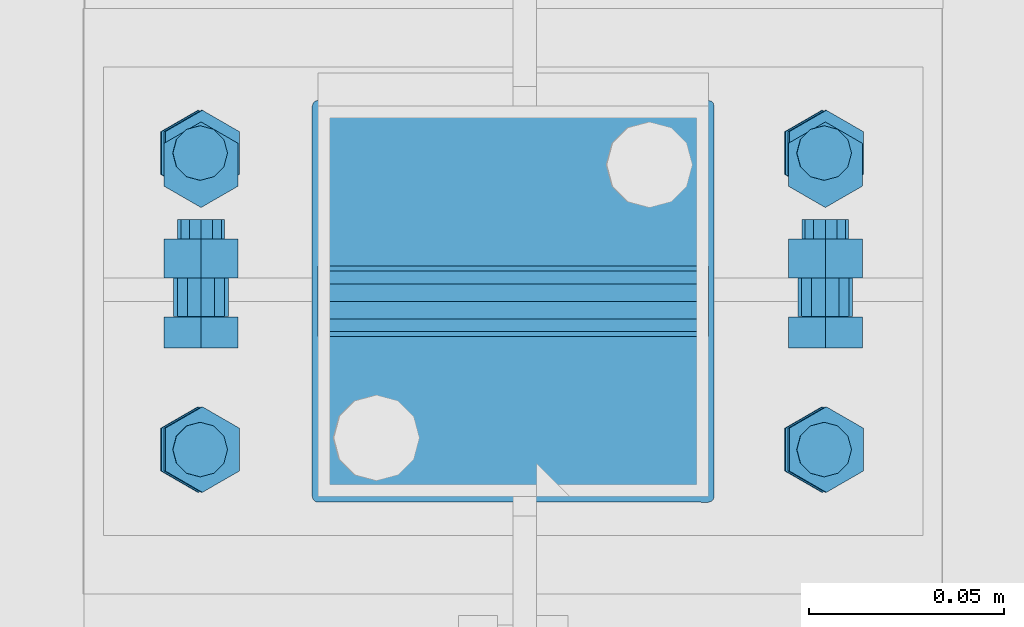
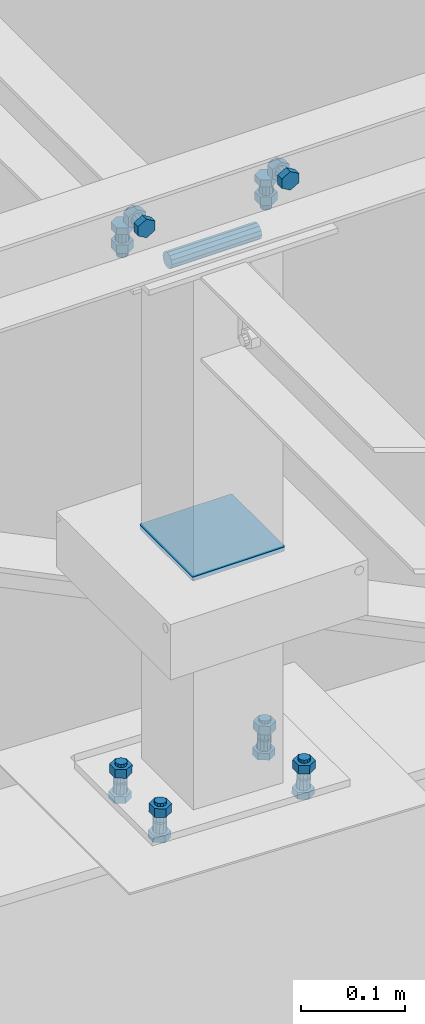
# One storey, part 279 of 3134: 6 mechanical fasteners, 4 elements without a shape of their own.
"""IFC2X3 building model written with IfcOpenShell, lengths in millimetres."""

from ifc_helpers import new_model, si_unit, frame, origin_with_axes, place, context, subcontext, project, spatial, faceted_brep, source, transform, mapped, material, type_object, element, aggregate, save


model = new_model("IFC2X3")

# Units and contexts
model_context = context("Model", 3, precision=1e-05, world=origin_with_axes())
body_context = subcontext(model_context, "Body", "Model", "MODEL_VIEW")
ifc_project = project(units=[si_unit("LENGTHUNIT", "METRE", prefix="MILLI"), si_unit("AREAUNIT", "SQUARE_METRE"), si_unit("VOLUMEUNIT", "CUBIC_METRE"), si_unit("MASSUNIT", "GRAM", prefix="KILO"), si_unit("TIMEUNIT", "SECOND"), si_unit("PLANEANGLEUNIT", "RADIAN"), si_unit("SOLIDANGLEUNIT", "STERADIAN"), si_unit("THERMODYNAMICTEMPERATUREUNIT", "DEGREE_CELSIUS"), si_unit("LUMINOUSINTENSITYUNIT", "LUMEN")], contexts=[model_context])

# Site, building, storey
site_placement = place(None, origin_with_axes())
site = spatial("IfcSite", under=ifc_project, at=site_placement, CompositionType="ELEMENT")
building_placement = place(site_placement, origin_with_axes())
building = spatial("IfcBuilding", under=site, at=building_placement, Name="Undefined", CompositionType="ELEMENT")
storey_placement = place(building_placement, origin_with_axes())
storey = spatial("IfcBuildingStorey", under=building, at=storey_placement, Name="Undefined", CompositionType="ELEMENT", Elevation=0.0)

# Assembly, mechanical fastener
assembly_1_placement = place(storey_placement, origin_with_axes())
assembly_1 = element("IfcElementAssembly", 1, at=assembly_1_placement, inside=storey, AssemblyPlace="NOTDEFINED", PredefinedType="RIGID_FRAME")
ifc_material_1 = material(Name="8.8")
mechanical_fastener_type = type_object("IfcMechanicalFastenerType", Name="Bolt assembly")
shared_shape_1 = source(origin_with_axes(), body_context, "Body", "Brep", [
    faceted_brep([(10.9696551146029, -14.0, 0.0), (5.48482755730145, -14.0, 9.5), (-5.48482755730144, -14.0, 9.5), (-10.9696551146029, -14.0, 1.34339530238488e-15), (-5.48482755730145, -14.0, -9.5), (5.48482755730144, -14.0, -9.50000000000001), (5.48482755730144, -6.0, -9.50000000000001), (-5.48482755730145, -6.0, -9.5), (-10.9696551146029, -6.0, 1.34339530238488e-15), (-5.48482755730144, -6.0, 9.5), (5.48482755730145, -6.0, 9.5), (10.9696551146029, -6.0, 0.0), (6.0, -6.0, 0.0), (5.19615242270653, -6.0, 3.00000000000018), (2.99999999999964, -6.0, 5.19615242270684), (-6.21801588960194e-13, -6.0, 6.0), (-3.00000000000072, -6.0, 5.19615242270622), (-5.19615242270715, -6.0, 2.9999999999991), (-6.0, -6.0, -1.24360317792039e-12), (-5.19615242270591, -6.0, -3.00000000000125), (-2.99999999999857, -6.0, -5.19615242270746), (1.85874342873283e-12, -6.0, -6.0), (3.00000000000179, -6.0, -5.1961524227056), (5.19615242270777, -6.0, -2.99999999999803), (5.19615242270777, 24.0, -2.99999999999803), (3.00000000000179, 24.0, -5.1961524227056), (1.85874342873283e-12, 24.0, -6.0), (-2.99999999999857, 24.0, -5.19615242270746), (-5.19615242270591, 24.0, -3.00000000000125), (-6.0, 24.0, -1.24360317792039e-12), (-5.19615242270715, 24.0, 2.9999999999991), (-3.00000000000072, 24.0, 5.19615242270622), (-6.21801588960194e-13, 24.0, 6.0), (2.99999999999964, 24.0, 5.19615242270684), (5.19615242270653, 24.0, 3.00000000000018), (6.0, 24.0, 0.0), (10.9696551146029, 6.00000000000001, 0.0), (5.48482755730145, 6.00000000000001, 9.5), (-5.48482755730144, 6.00000000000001, 9.5), (-10.9696551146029, 6.00000000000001, 1.34339530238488e-15), (-5.48482755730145, 6.00000000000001, -9.5), (5.48482755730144, 6.00000000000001, -9.50000000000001), (5.48482755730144, 16.0, -9.50000000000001), (-5.48482755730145, 16.0, -9.5), (-10.9696551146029, 16.0, 1.34339530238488e-15), (-5.48482755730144, 16.0, 9.5), (5.48482755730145, 16.0, 9.5), (10.9696551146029, 16.0, 0.0)], [[[0, 1, 2, 3, 4, 5]], [[6, 7, 8, 9, 10, 11]], [[0, 11, 10, 1]], [[1, 10, 9, 2]], [[2, 9, 8, 3]], [[3, 8, 7, 4]], [[4, 7, 6, 5]], [[5, 6, 11, 0]], [[12, 13, 14, 15, 16, 17, 18, 19, 20, 21, 22, 23]], [[24, 25, 26, 27, 28, 29, 30, 31, 32, 33, 34, 35]], [[12, 35, 34, 13]], [[13, 34, 33, 14]], [[14, 33, 32, 15]], [[15, 32, 31, 16]], [[16, 31, 30, 17]], [[17, 30, 29, 18]], [[18, 29, 28, 19]], [[19, 28, 27, 20]], [[20, 27, 26, 21]], [[21, 26, 25, 22]], [[22, 25, 24, 23]], [[23, 24, 35, 12]], [[36, 37, 38, 39, 40, 41]], [[42, 43, 44, 45, 46, 47]], [[36, 47, 46, 37]], [[37, 46, 45, 38]], [[38, 45, 44, 39]], [[39, 44, 43, 40]], [[40, 43, 42, 41]], [[41, 42, 47, 36]]]),
    faceted_brep([(7.0, -0.1, 0.0), (6.06217782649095, -0.1, 3.50000000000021), (3.49999999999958, -0.1, 6.06217782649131), (-7.25435187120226e-13, -0.1, 7.0), (-3.50000000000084, -0.1, 6.06217782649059), (-6.06217782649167, -0.1, 3.49999999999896), (-7.0, -0.1, -1.45087037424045e-12), (-6.06217782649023, -0.1, -3.50000000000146), (-3.49999999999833, -0.1, -6.06217782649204), (2.1685340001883e-12, -0.1, -7.0), (3.50000000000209, -0.1, -6.06217782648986), (6.0621778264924, -0.1, -3.4999999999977), (6.0621778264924, 6.00000000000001, -3.4999999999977), (3.50000000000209, 6.00000000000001, -6.06217782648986), (2.1685340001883e-12, 6.00000000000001, -7.0), (-3.49999999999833, 6.00000000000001, -6.06217782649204), (-6.06217782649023, 6.00000000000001, -3.50000000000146), (-7.0, 6.00000000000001, -1.45087037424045e-12), (-6.06217782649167, 6.00000000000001, 3.49999999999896), (-3.50000000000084, 6.00000000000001, 6.06217782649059), (-7.25435187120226e-13, 6.00000000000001, 7.0), (3.49999999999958, 6.00000000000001, 6.06217782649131), (6.06217782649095, 6.00000000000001, 3.50000000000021), (7.0, 6.00000000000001, 0.0), (7.0, -5.9, 0.0), (6.06217782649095, -5.9, 3.50000000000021), (3.49999999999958, -5.9, 6.06217782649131), (-7.25435187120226e-13, -5.9, 7.0), (-3.50000000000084, -5.9, 6.06217782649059), (-6.06217782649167, -5.9, 3.49999999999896), (-7.0, -5.9, -1.45087037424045e-12), (-6.06217782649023, -5.9, -3.50000000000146), (-3.49999999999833, -5.9, -6.06217782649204), (2.1685340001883e-12, -5.9, -7.0), (3.50000000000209, -5.9, -6.06217782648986), (6.0621778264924, -5.9, -3.4999999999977), (6.0621778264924, 0.0999999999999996, -3.4999999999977), (3.50000000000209, 0.0999999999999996, -6.06217782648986), (2.1685340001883e-12, 0.0999999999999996, -7.0), (-3.49999999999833, 0.0999999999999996, -6.06217782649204), (-6.06217782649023, 0.0999999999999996, -3.50000000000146), (-7.0, 0.0999999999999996, -1.45087037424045e-12), (-6.06217782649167, 0.0999999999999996, 3.49999999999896), (-3.50000000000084, 0.0999999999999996, 6.06217782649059), (-7.25435187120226e-13, 0.0999999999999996, 7.0), (3.49999999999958, 0.0999999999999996, 6.06217782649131), (6.06217782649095, 0.0999999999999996, 3.50000000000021), (7.0, 0.0999999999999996, 0.0)], [[[0, 1, 2, 3, 4, 5, 6, 7, 8, 9, 10, 11]], [[12, 13, 14, 15, 16, 17, 18, 19, 20, 21, 22, 23]], [[0, 23, 22, 1]], [[1, 22, 21, 2]], [[2, 21, 20, 3]], [[3, 20, 19, 4]], [[4, 19, 18, 5]], [[5, 18, 17, 6]], [[6, 17, 16, 7]], [[7, 16, 15, 8]], [[8, 15, 14, 9]], [[9, 14, 13, 10]], [[10, 13, 12, 11]], [[11, 12, 23, 0]], [[24, 25, 26, 27, 28, 29, 30, 31, 32, 33, 34, 35]], [[36, 37, 38, 39, 40, 41, 42, 43, 44, 45, 46, 47]], [[24, 47, 46, 25]], [[25, 46, 45, 26]], [[26, 45, 44, 27]], [[27, 44, 43, 28]], [[28, 43, 42, 29]], [[29, 42, 41, 30]], [[30, 41, 40, 31]], [[31, 40, 39, 32]], [[32, 39, 38, 33]], [[33, 38, 37, 34]], [[34, 37, 36, 35]], [[35, 36, 47, 24]]]),
])
mechanical_fastener_1_placement = place(assembly_1_placement, frame((31675.0, 61020.0, 10865.0), z_axis=(1.0, 0.0, 0.0), x_axis=(0.0, -1.0, 0.0)))
mechanical_fastener_1 = element("IfcMechanicalFastener", 2, at=mechanical_fastener_1_placement, type_object=mechanical_fastener_type, material=ifc_material_1, Name="Bolt assembly", NominalDiameter=12.0, NominalLength=30.0, context=body_context, shape_type="MappedRepresentation", body=[
    mapped(shared_shape_1, transform((0.0, -5.32963895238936e-10, -79.9999999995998))),
    mapped(shared_shape_1, transform((0.0, 5.3114490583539e-10, 79.9999999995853))),
])

assembly_2_placement = place(storey_placement, origin_with_axes())
assembly_2 = element("IfcElementAssembly", 3, at=assembly_2_placement, inside=storey, AssemblyPlace="NOTDEFINED", PredefinedType="RIGID_FRAME")
shared_shape_2 = source(origin_with_axes(), body_context, "Body", "Brep", [
    faceted_brep([(7.0, 13.0000253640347, 0.0), (6.06217782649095, 13.0000253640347, 3.50000000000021), (3.49999999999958, 13.0000253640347, 6.06217782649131), (-7.25435187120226e-13, 13.0000253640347, 7.0), (-3.50000000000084, 13.0000253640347, 6.06217782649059), (-6.06217782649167, 13.0000253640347, 3.49999999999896), (-7.0, 13.0000253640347, -1.45087037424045e-12), (-6.06217782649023, 13.0000253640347, -3.50000000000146), (-3.49999999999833, 13.0000253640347, -6.06217782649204), (2.1685340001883e-12, 13.0000253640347, -7.0), (3.50000000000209, 13.0000253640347, -6.06217782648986), (6.0621778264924, 13.0000253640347, -3.4999999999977), (6.0621778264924, 15.0999999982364, -3.4999999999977), (3.50000000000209, 15.0999999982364, -6.06217782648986), (2.1685340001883e-12, 15.0999999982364, -7.0), (-3.49999999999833, 15.0999999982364, -6.06217782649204), (-6.06217782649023, 15.0999999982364, -3.50000000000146), (-7.0, 15.0999999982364, -1.45087037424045e-12), (-6.06217782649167, 15.0999999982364, 3.49999999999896), (-3.50000000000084, 15.0999999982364, 6.06217782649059), (-7.25435187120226e-13, 15.0999999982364, 7.0), (3.49999999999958, 15.0999999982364, 6.06217782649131), (6.06217782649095, 15.0999999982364, 3.50000000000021), (7.0, 15.0999999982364, 0.0)], [[[0, 1, 2, 3, 4, 5, 6, 7, 8, 9, 10, 11]], [[12, 13, 14, 15, 16, 17, 18, 19, 20, 21, 22, 23]], [[0, 23, 22, 1]], [[1, 22, 21, 2]], [[2, 21, 20, 3]], [[3, 20, 19, 4]], [[4, 19, 18, 5]], [[5, 18, 17, 6]], [[6, 17, 16, 7]], [[7, 16, 15, 8]], [[8, 15, 14, 9]], [[9, 14, 13, 10]], [[10, 13, 12, 11]], [[11, 12, 23, 0]]]),
])
mechanical_fastener_2_placement = place(assembly_2_placement, frame((31674.2851187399, 61023.0, 10204.1872055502), z_axis=(-0.99951962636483, 0.0, 0.0309922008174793), x_axis=(0.0, -1.0, 0.0)))
mechanical_fastener_2 = element("IfcMechanicalFastener", 4, at=mechanical_fastener_2_placement, type_object=mechanical_fastener_type, material=ifc_material_1, Name="Bolt assembly", NominalDiameter=12.0, NominalLength=2.0, context=body_context, shape_type="MappedRepresentation", body=[
    mapped(shared_shape_2, transform((0.0, -5.32963895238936e-10, -79.9999999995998))),
    mapped(shared_shape_2, transform((76.0, -5.32963895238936e-10, -79.9999999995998))),
    mapped(shared_shape_2, transform((0.0, 5.3114490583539e-10, 79.9999999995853))),
    mapped(shared_shape_2, transform((76.0, 5.3114490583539e-10, 79.9999999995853))),
])
aggregate(assembly_2, [mechanical_fastener_2])

# Assembly, mechanical fasteners
assembly_3_placement = place(storey_placement, origin_with_axes())
assembly_3 = element("IfcElementAssembly", 5, at=assembly_3_placement, inside=storey, AssemblyPlace="NOTDEFINED", PredefinedType="RIGID_FRAME")
shared_shape_3 = source(origin_with_axes(), body_context, "Body", "Brep", [
    faceted_brep([(9.0, -50.0, 0.0), (7.79422863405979, -50.0, 4.50000000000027), (4.49999999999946, -50.0, 7.79422863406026), (-9.3270238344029e-13, -50.0, 9.0), (-4.50000000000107, -50.0, 7.79422863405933), (-7.79422863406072, -50.0, 4.49999999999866), (-9.0, -50.0, -1.86540476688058e-12), (-7.79422863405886, -50.0, -4.50000000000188), (-4.49999999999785, -50.0, -7.79422863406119), (2.78811514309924e-12, -50.0, -9.0), (4.50000000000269, -50.0, -7.7942286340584), (7.79422863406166, -50.0, -4.49999999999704), (7.79422863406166, 50.1, -4.49999999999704), (4.50000000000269, 50.1, -7.7942286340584), (2.78811514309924e-12, 50.1, -9.0), (-4.49999999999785, 50.1, -7.79422863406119), (-7.79422863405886, 50.1, -4.50000000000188), (-9.0, 50.1, -1.86540476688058e-12), (-7.79422863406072, 50.1, 4.49999999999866), (-4.50000000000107, 50.1, 7.79422863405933), (-9.3270238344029e-13, 50.1, 9.0), (4.49999999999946, 50.1, 7.79422863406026), (7.79422863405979, 50.1, 4.50000000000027), (9.0, 50.1, 0.0)], [[[0, 1, 2, 3, 4, 5, 6, 7, 8, 9, 10, 11]], [[12, 13, 14, 15, 16, 17, 18, 19, 20, 21, 22, 23]], [[0, 23, 22, 1]], [[1, 22, 21, 2]], [[2, 21, 20, 3]], [[3, 20, 19, 4]], [[4, 19, 18, 5]], [[5, 18, 17, 6]], [[6, 17, 16, 7]], [[7, 16, 15, 8]], [[8, 15, 14, 9]], [[9, 14, 13, 10]], [[10, 13, 12, 11]], [[11, 12, 23, 0]]]),
])
mechanical_fastener_3_placement = place(assembly_3_placement, frame((31675.0, 60985.0, 10845.0), z_axis=(0.0, 1.0, 0.0), x_axis=(0.0, 0.0, 1.0)))
mechanical_fastener_3 = element("IfcMechanicalFastener", 6, at=mechanical_fastener_3_placement, type_object=mechanical_fastener_type, material=ifc_material_1, Name="Bolt assembly", NominalDiameter=16.0, NominalLength=100.0, context=body_context, shape_type="MappedRepresentation", body=[
    mapped(shared_shape_3, transform((0.0, 0.0, 0.0))),
])
ifc_material_2 = material(Name="6.8")
shared_shape_4 = source(origin_with_axes(), body_context, "Body", "Brep", [
    faceted_brep([(51.5, 1.36424205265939e-12, 50.0), (51.3858192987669, 1.36424205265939e-12, 50.5740251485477), (51.0606601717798, 1.36424205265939e-12, 51.0606601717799), (50.5740251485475, 1.36424205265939e-12, 51.385819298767), (-50.0000000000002, 1.36424205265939e-12, 51.5), (-50.7500000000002, 1.36424205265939e-12, 51.2990381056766), (-51.2990381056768, 1.36424205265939e-12, 50.7499999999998), (-51.5, 1.36424205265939e-12, 49.9999999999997), (-51.5, 1.36424205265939e-12, -50.0000000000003), (-51.2990381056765, 1.36424205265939e-12, -50.7500000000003), (-50.7499999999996, 1.36424205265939e-12, -51.2990381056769), (-49.9999999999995, 1.36424205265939e-12, -51.5), (50.0000000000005, 1.36424205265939e-12, -51.5), (50.7500000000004, 1.36424205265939e-12, -51.2990381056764), (51.2990381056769, 1.36424205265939e-12, -50.7499999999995), (51.5, 1.36424205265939e-12, -49.9999999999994), (51.5, 5.10000000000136, -49.9999999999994), (51.2990381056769, 5.10000000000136, -50.7499999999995), (50.7500000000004, 5.10000000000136, -51.2990381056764), (50.0000000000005, 5.10000000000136, -51.5), (-49.9999999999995, 5.10000000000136, -51.5), (-50.7499999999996, 5.10000000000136, -51.2990381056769), (-51.2990381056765, 5.10000000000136, -50.7500000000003), (-51.5, 5.10000000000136, -50.0000000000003), (-51.5, 5.10000000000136, 49.9999999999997), (-51.2990381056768, 5.10000000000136, 50.7499999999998), (-50.7500000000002, 5.10000000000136, 51.2990381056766), (-50.0000000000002, 5.10000000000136, 51.5), (50.5740251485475, 5.10000000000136, 51.385819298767), (51.0606601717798, 5.10000000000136, 51.0606601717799), (51.3858192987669, 5.10000000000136, 50.5740251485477), (51.5, 5.10000000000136, 50.0)], [[[0, 1, 2, 3, 4, 5, 6, 7, 8, 9, 10, 11, 12, 13, 14, 15]], [[16, 17, 18, 19, 20, 21, 22, 23, 24, 25, 26, 27, 28, 29, 30, 31]], [[0, 31, 30, 1]], [[1, 30, 29, 2]], [[2, 29, 28, 3]], [[3, 28, 27, 4]], [[4, 27, 26, 5]], [[5, 26, 25, 6]], [[6, 25, 24, 7]], [[7, 24, 23, 8]], [[8, 23, 22, 9]], [[9, 22, 21, 10]], [[10, 21, 20, 11]], [[11, 20, 19, 12]], [[12, 19, 18, 13]], [[13, 18, 17, 14]], [[14, 17, 16, 15]], [[15, 16, 31, 0]]]),
])
mechanical_fastener_4_placement = place(assembly_3_placement, frame((31675.0, 60985.0, 10503.87), z_axis=(0.0, -1.0, 0.0), x_axis=(-1.0, 0.0, 0.0)))
mechanical_fastener_4 = element("IfcMechanicalFastener", 7, at=mechanical_fastener_4_placement, type_object=mechanical_fastener_type, material=ifc_material_2, Name="Bolt assembly", NominalDiameter=10.0, NominalLength=5.0, context=body_context, shape_type="MappedRepresentation", body=[
    mapped(shared_shape_4, transform((0.0, 0.0, 0.0))),
])
aggregate(assembly_3, [mechanical_fastener_3, mechanical_fastener_4])

# Mechanical fastener
shared_shape_5 = source(origin_with_axes(), body_context, "Body", "Brep", [
    faceted_brep([(10.9696551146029, -12.0, 0.0), (5.48482755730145, -12.0, 9.5), (-5.48482755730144, -12.0, 9.5), (-10.9696551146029, -12.0, 1.34339530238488e-15), (-5.48482755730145, -12.0, -9.5), (5.48482755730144, -12.0, -9.50000000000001), (5.48482755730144, -4.0, -9.50000000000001), (-5.48482755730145, -4.0, -9.5), (-10.9696551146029, -4.0, 1.34339530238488e-15), (-5.48482755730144, -4.0, 9.5), (5.48482755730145, -4.0, 9.5), (10.9696551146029, -4.0, 0.0), (6.0, -4.0, 0.0), (5.19615242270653, -4.0, 3.00000000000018), (2.99999999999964, -4.0, 5.19615242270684), (-6.21801588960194e-13, -4.0, 6.0), (-3.00000000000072, -4.0, 5.19615242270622), (-5.19615242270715, -4.0, 2.9999999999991), (-6.0, -4.0, -1.24360317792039e-12), (-5.19615242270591, -4.0, -3.00000000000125), (-2.99999999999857, -4.0, -5.19615242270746), (1.85874342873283e-12, -4.0, -6.0), (3.00000000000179, -4.0, -5.1961524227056), (5.19615242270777, -4.0, -2.99999999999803), (5.19615242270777, 21.0, -2.99999999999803), (3.00000000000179, 21.0, -5.1961524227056), (1.85874342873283e-12, 21.0, -6.0), (-2.99999999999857, 21.0, -5.19615242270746), (-5.19615242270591, 21.0, -3.00000000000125), (-6.0, 21.0, -1.24360317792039e-12), (-5.19615242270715, 21.0, 2.9999999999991), (-3.00000000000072, 21.0, 5.19615242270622), (-6.21801588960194e-13, 21.0, 6.0), (2.99999999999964, 21.0, 5.19615242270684), (5.19615242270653, 21.0, 3.00000000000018), (6.0, 21.0, 0.0), (10.9696551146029, 6.00000000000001, 0.0), (5.48482755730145, 6.00000000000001, 9.5), (-5.48482755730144, 6.00000000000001, 9.5), (-10.9696551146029, 6.00000000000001, 1.34339530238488e-15), (-5.48482755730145, 6.00000000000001, -9.5), (5.48482755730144, 6.00000000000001, -9.50000000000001), (5.48482755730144, 16.0, -9.50000000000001), (-5.48482755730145, 16.0, -9.5), (-10.9696551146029, 16.0, 1.34339530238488e-15), (-5.48482755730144, 16.0, 9.5), (5.48482755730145, 16.0, 9.5), (10.9696551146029, 16.0, 0.0)], [[[0, 1, 2, 3, 4, 5]], [[6, 7, 8, 9, 10, 11]], [[0, 11, 10, 1]], [[1, 10, 9, 2]], [[2, 9, 8, 3]], [[3, 8, 7, 4]], [[4, 7, 6, 5]], [[5, 6, 11, 0]], [[12, 13, 14, 15, 16, 17, 18, 19, 20, 21, 22, 23]], [[24, 25, 26, 27, 28, 29, 30, 31, 32, 33, 34, 35]], [[12, 35, 34, 13]], [[13, 34, 33, 14]], [[14, 33, 32, 15]], [[15, 32, 31, 16]], [[16, 31, 30, 17]], [[17, 30, 29, 18]], [[18, 29, 28, 19]], [[19, 28, 27, 20]], [[20, 27, 26, 21]], [[21, 26, 25, 22]], [[22, 25, 24, 23]], [[23, 24, 35, 12]], [[36, 37, 38, 39, 40, 41]], [[42, 43, 44, 45, 46, 47]], [[36, 47, 46, 37]], [[37, 46, 45, 38]], [[38, 45, 44, 39]], [[39, 44, 43, 40]], [[40, 43, 42, 41]], [[41, 42, 47, 36]]]),
    faceted_brep([(7.0, -3.9, 0.0), (6.06217782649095, -3.9, 3.50000000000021), (3.49999999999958, -3.9, 6.06217782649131), (-7.25435187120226e-13, -3.9, 7.0), (-3.50000000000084, -3.9, 6.06217782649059), (-6.06217782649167, -3.9, 3.49999999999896), (-7.0, -3.9, -1.45087037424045e-12), (-6.06217782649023, -3.9, -3.50000000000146), (-3.49999999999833, -3.9, -6.06217782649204), (2.1685340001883e-12, -3.9, -7.0), (3.50000000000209, -3.9, -6.06217782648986), (6.0621778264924, -3.9, -3.4999999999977), (6.0621778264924, 0.0999999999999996, -3.4999999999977), (3.50000000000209, 0.0999999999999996, -6.06217782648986), (2.1685340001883e-12, 0.0999999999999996, -7.0), (-3.49999999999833, 0.0999999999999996, -6.06217782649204), (-6.06217782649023, 0.0999999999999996, -3.50000000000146), (-7.0, 0.0999999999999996, -1.45087037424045e-12), (-6.06217782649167, 0.0999999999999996, 3.49999999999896), (-3.50000000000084, 0.0999999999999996, 6.06217782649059), (-7.25435187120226e-13, 0.0999999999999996, 7.0), (3.49999999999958, 0.0999999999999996, 6.06217782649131), (6.06217782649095, 0.0999999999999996, 3.50000000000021), (7.0, 0.0999999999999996, 0.0), (7.0, -0.1, 0.0), (6.06217782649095, -0.1, 3.50000000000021), (3.49999999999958, -0.1, 6.06217782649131), (-7.25435187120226e-13, -0.1, 7.0), (-3.50000000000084, -0.1, 6.06217782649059), (-6.06217782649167, -0.1, 3.49999999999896), (-7.0, -0.1, -1.45087037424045e-12), (-6.06217782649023, -0.1, -3.50000000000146), (-3.49999999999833, -0.1, -6.06217782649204), (2.1685340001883e-12, -0.1, -7.0), (3.50000000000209, -0.1, -6.06217782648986), (6.0621778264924, -0.1, -3.4999999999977), (6.0621778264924, 6.00000000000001, -3.4999999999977), (3.50000000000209, 6.00000000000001, -6.06217782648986), (2.1685340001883e-12, 6.00000000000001, -7.0), (-3.49999999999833, 6.00000000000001, -6.06217782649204), (-6.06217782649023, 6.00000000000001, -3.50000000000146), (-7.0, 6.00000000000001, -1.45087037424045e-12), (-6.06217782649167, 6.00000000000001, 3.49999999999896), (-3.50000000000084, 6.00000000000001, 6.06217782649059), (-7.25435187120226e-13, 6.00000000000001, 7.0), (3.49999999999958, 6.00000000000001, 6.06217782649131), (6.06217782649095, 6.00000000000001, 3.50000000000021), (7.0, 6.00000000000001, 0.0)], [[[0, 1, 2, 3, 4, 5, 6, 7, 8, 9, 10, 11]], [[12, 13, 14, 15, 16, 17, 18, 19, 20, 21, 22, 23]], [[0, 23, 22, 1]], [[1, 22, 21, 2]], [[2, 21, 20, 3]], [[3, 20, 19, 4]], [[4, 19, 18, 5]], [[5, 18, 17, 6]], [[6, 17, 16, 7]], [[7, 16, 15, 8]], [[8, 15, 14, 9]], [[9, 14, 13, 10]], [[10, 13, 12, 11]], [[11, 12, 23, 0]], [[24, 25, 26, 27, 28, 29, 30, 31, 32, 33, 34, 35]], [[36, 37, 38, 39, 40, 41, 42, 43, 44, 45, 46, 47]], [[24, 47, 46, 25]], [[25, 46, 45, 26]], [[26, 45, 44, 27]], [[27, 44, 43, 28]], [[28, 43, 42, 29]], [[29, 42, 41, 30]], [[30, 41, 40, 31]], [[31, 40, 39, 32]], [[32, 39, 38, 33]], [[33, 38, 37, 34]], [[34, 37, 36, 35]], [[35, 36, 47, 24]]]),
])
mechanical_fastener_5_placement = place(assembly_1_placement, frame((31675.0, 60985.0, 10900.0), z_axis=(1.0, 0.0, 0.0), x_axis=(0.0, 0.0, -1.0)))
mechanical_fastener_5 = element("IfcMechanicalFastener", 8, at=mechanical_fastener_5_placement, type_object=mechanical_fastener_type, material=ifc_material_1, Name="Bolt assembly", NominalDiameter=12.0, NominalLength=25.0, context=body_context, shape_type="MappedRepresentation", body=[
    mapped(shared_shape_5, transform((0.0, -5.32963895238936e-10, -79.9999999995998))),
    mapped(shared_shape_5, transform((0.0, 5.3114490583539e-10, 79.9999999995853))),
])

aggregate(assembly_1, [mechanical_fastener_1, mechanical_fastener_5])

# Assembly, mechanical fastener
assembly_4_placement = place(storey_placement, origin_with_axes())
assembly_4 = element("IfcElementAssembly", 9, at=assembly_4_placement, inside=storey, Name="IPE330", AssemblyPlace="NOTDEFINED", PredefinedType="RIGID_FRAME")
shared_shape_6 = source(origin_with_axes(), body_context, "Body", "Brep", [
    faceted_brep([(10.9696551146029, -6.48557985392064, 0.0), (5.48482755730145, -6.48557985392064, 9.5), (-5.48482755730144, -6.48557985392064, 9.5), (-10.9696551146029, -6.48557985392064, 1.34339530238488e-15), (-5.48482755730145, -6.48557985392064, -9.5), (5.48482755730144, -6.48557985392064, -9.50000000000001), (5.48482755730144, 1.51442014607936, -9.50000000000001), (-5.48482755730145, 1.51442014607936, -9.5), (-10.9696551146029, 1.51442014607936, 1.34339530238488e-15), (-5.48482755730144, 1.51442014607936, 9.5), (5.48482755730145, 1.51442014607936, 9.5), (10.9696551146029, 1.51442014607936, 0.0), (6.0, 1.51442014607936, 0.0), (5.19615242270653, 1.51442014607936, 3.00000000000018), (2.99999999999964, 1.51442014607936, 5.19615242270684), (-6.21801588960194e-13, 1.51442014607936, 6.0), (-3.00000000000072, 1.51442014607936, 5.19615242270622), (-5.19615242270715, 1.51442014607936, 2.9999999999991), (-6.0, 1.51442014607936, -1.24360317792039e-12), (-5.19615242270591, 1.51442014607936, -3.00000000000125), (-2.99999999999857, 1.51442014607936, -5.19615242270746), (1.85874342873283e-12, 1.51442014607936, -6.0), (3.00000000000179, 1.51442014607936, -5.1961524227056), (5.19615242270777, 1.51442014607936, -2.99999999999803), (5.19615242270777, 36.5144201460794, -2.99999999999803), (3.00000000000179, 36.5144201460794, -5.1961524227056), (1.85874342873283e-12, 36.5144201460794, -6.0), (-2.99999999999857, 36.5144201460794, -5.19615242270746), (-5.19615242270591, 36.5144201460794, -3.00000000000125), (-6.0, 36.5144201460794, -1.24360317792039e-12), (-5.19615242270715, 36.5144201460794, 2.9999999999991), (-3.00000000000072, 36.5144201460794, 5.19615242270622), (-6.21801588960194e-13, 36.5144201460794, 6.0), (2.99999999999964, 36.5144201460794, 5.19615242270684), (5.19615242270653, 36.5144201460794, 3.00000000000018), (6.0, 36.5144201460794, 0.0), (10.9696551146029, 23.0139082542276, 0.0), (5.48482755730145, 23.0139082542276, 9.5), (-5.48482755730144, 23.0139082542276, 9.5), (-10.9696551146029, 23.0139082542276, 1.34339530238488e-15), (-5.48482755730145, 23.0139082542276, -9.5), (5.48482755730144, 23.0139082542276, -9.50000000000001), (5.48482755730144, 33.0139082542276, -9.50000000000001), (-5.48482755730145, 33.0139082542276, -9.5), (-10.9696551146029, 33.0139082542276, 1.34339530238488e-15), (-5.48482755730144, 33.0139082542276, 9.5), (5.48482755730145, 33.0139082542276, 9.5), (10.9696551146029, 33.0139082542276, 0.0)], [[[0, 1, 2, 3, 4, 5]], [[6, 7, 8, 9, 10, 11]], [[0, 11, 10, 1]], [[1, 10, 9, 2]], [[2, 9, 8, 3]], [[3, 8, 7, 4]], [[4, 7, 6, 5]], [[5, 6, 11, 0]], [[12, 13, 14, 15, 16, 17, 18, 19, 20, 21, 22, 23]], [[24, 25, 26, 27, 28, 29, 30, 31, 32, 33, 34, 35]], [[12, 35, 34, 13]], [[13, 34, 33, 14]], [[14, 33, 32, 15]], [[15, 32, 31, 16]], [[16, 31, 30, 17]], [[17, 30, 29, 18]], [[18, 29, 28, 19]], [[19, 28, 27, 20]], [[20, 27, 26, 21]], [[21, 26, 25, 22]], [[22, 25, 24, 23]], [[23, 24, 35, 12]], [[36, 37, 38, 39, 40, 41]], [[42, 43, 44, 45, 46, 47]], [[36, 47, 46, 37]], [[37, 46, 45, 38]], [[38, 45, 44, 39]], [[39, 44, 43, 40]], [[40, 43, 42, 41]], [[41, 42, 47, 36]]]),
    faceted_brep([(7.0, 14.9139082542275, 0.0), (6.06217782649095, 14.9139082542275, 3.50000000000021), (3.49999999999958, 14.9139082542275, 6.06217782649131), (-7.25435187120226e-13, 14.9139082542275, 7.0), (-3.50000000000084, 14.9139082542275, 6.06217782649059), (-6.06217782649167, 14.9139082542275, 3.49999999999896), (-7.0, 14.9139082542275, -1.45087037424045e-12), (-6.06217782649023, 14.9139082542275, -3.50000000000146), (-3.49999999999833, 14.9139082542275, -6.06217782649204), (2.1685340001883e-12, 14.9139082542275, -7.0), (3.50000000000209, 14.9139082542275, -6.06217782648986), (6.0621778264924, 14.9139082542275, -3.4999999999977), (6.0621778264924, 23.0139082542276, -3.4999999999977), (3.50000000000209, 23.0139082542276, -6.06217782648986), (2.1685340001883e-12, 23.0139082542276, -7.0), (-3.49999999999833, 23.0139082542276, -6.06217782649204), (-6.06217782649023, 23.0139082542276, -3.50000000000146), (-7.0, 23.0139082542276, -1.45087037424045e-12), (-6.06217782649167, 23.0139082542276, 3.49999999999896), (-3.50000000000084, 23.0139082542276, 6.06217782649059), (-7.25435187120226e-13, 23.0139082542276, 7.0), (3.49999999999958, 23.0139082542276, 6.06217782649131), (6.06217782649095, 23.0139082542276, 3.50000000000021), (7.0, 23.0139082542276, 0.0), (7.0, 1.61442014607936, 0.0), (6.06217782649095, 1.61442014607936, 3.50000000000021), (3.49999999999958, 1.61442014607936, 6.06217782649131), (-7.25435187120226e-13, 1.61442014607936, 7.0), (-3.50000000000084, 1.61442014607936, 6.06217782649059), (-6.06217782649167, 1.61442014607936, 3.49999999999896), (-7.0, 1.61442014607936, -1.45087037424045e-12), (-6.06217782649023, 1.61442014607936, -3.50000000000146), (-3.49999999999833, 1.61442014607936, -6.06217782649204), (2.1685340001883e-12, 1.61442014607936, -7.0), (3.50000000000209, 1.61442014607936, -6.06217782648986), (6.0621778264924, 1.61442014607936, -3.4999999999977), (6.0621778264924, 13.1144201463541, -3.4999999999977), (3.50000000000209, 13.1144201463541, -6.06217782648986), (2.1685340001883e-12, 13.1144201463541, -7.0), (-3.49999999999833, 13.1144201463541, -6.06217782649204), (-6.06217782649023, 13.1144201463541, -3.50000000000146), (-7.0, 13.1144201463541, -1.45087037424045e-12), (-6.06217782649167, 13.1144201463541, 3.49999999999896), (-3.50000000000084, 13.1144201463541, 6.06217782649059), (-7.25435187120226e-13, 13.1144201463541, 7.0), (3.49999999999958, 13.1144201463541, 6.06217782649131), (6.06217782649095, 13.1144201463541, 3.50000000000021), (7.0, 13.1144201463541, 0.0)], [[[0, 1, 2, 3, 4, 5, 6, 7, 8, 9, 10, 11]], [[12, 13, 14, 15, 16, 17, 18, 19, 20, 21, 22, 23]], [[0, 23, 22, 1]], [[1, 22, 21, 2]], [[2, 21, 20, 3]], [[3, 20, 19, 4]], [[4, 19, 18, 5]], [[5, 18, 17, 6]], [[6, 17, 16, 7]], [[7, 16, 15, 8]], [[8, 15, 14, 9]], [[9, 14, 13, 10]], [[10, 13, 12, 11]], [[11, 12, 23, 0]], [[24, 25, 26, 27, 28, 29, 30, 31, 32, 33, 34, 35]], [[36, 37, 38, 39, 40, 41, 42, 43, 44, 45, 46, 47]], [[24, 47, 46, 25]], [[25, 46, 45, 26]], [[26, 45, 44, 27]], [[27, 44, 43, 28]], [[28, 43, 42, 29]], [[29, 42, 41, 30]], [[30, 41, 40, 31]], [[31, 40, 39, 32]], [[32, 39, 38, 33]], [[33, 38, 37, 34]], [[34, 37, 36, 35]], [[35, 36, 47, 24]]]),
])
mechanical_fastener_6_placement = place(assembly_4_placement, frame((31674.2851187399, 61023.0, 10204.1872055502), z_axis=(-0.99951962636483, 0.0, 0.0309922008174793), x_axis=(0.0, -1.0, 0.0)))
mechanical_fastener_6 = element("IfcMechanicalFastener", 10, at=mechanical_fastener_6_placement, type_object=mechanical_fastener_type, material=ifc_material_1, Name="Bolt assembly", NominalDiameter=12.0, NominalLength=35.0, context=body_context, shape_type="MappedRepresentation", body=[
    mapped(shared_shape_6, transform((0.0, -5.32963895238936e-10, -79.9999999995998))),
    mapped(shared_shape_6, transform((76.0, -5.32963895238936e-10, -79.9999999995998))),
    mapped(shared_shape_6, transform((0.0, 5.3114490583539e-10, 79.9999999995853))),
    mapped(shared_shape_6, transform((76.0, 5.3114490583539e-10, 79.9999999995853))),
])
aggregate(assembly_4, [mechanical_fastener_6])

save(model, "model.ifc")
